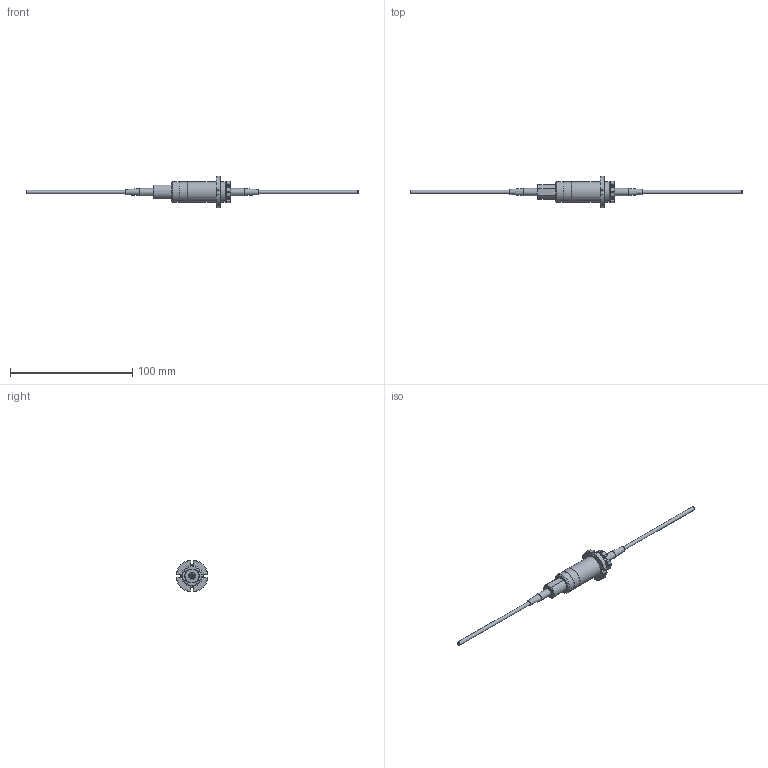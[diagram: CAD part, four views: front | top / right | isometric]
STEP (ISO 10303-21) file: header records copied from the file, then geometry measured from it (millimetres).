
FILE_DESCRIPTION (( 'STEP AP203' ), '1' );
FILE_NAME ('MJP.STEP', '2024-02-16T15:11:11', ( '' ), ( '' ), 'SwSTEP 2.0', 'SolidWorks 2023', '' );
FILE_SCHEMA (( 'CONFIG_CONTROL_DESIGN' ));
Length unit declared in the file: millimetre
Products named in the file (1): MJP
Bounding box: 271.5 x 25.76 x 25.76 mm (x, y, z)
Surface area: 8876.7 mm2 (no closed solid volume)
Topology: 0 solids, 11 shells, 151 faces, 385 edges, 240 vertices
Faces by surface type: cylinder 48, cone 46, plane 44, torus 13
Full cylindrical faces by diameter (mm): 1.6 x4, 2 x2, 3 x2, 6 x2, 16.6 x1, 17 x3
Entity records: 4591 total; most frequent: CARTESIAN_POINT 970, DIRECTION 790, ORIENTED_EDGE 630, EDGE_CURVE 345, AXIS2_PLACEMENT_3D 319, VERTEX_POINT 235, EDGE_LOOP 206, FACE_OUTER_BOUND 176
